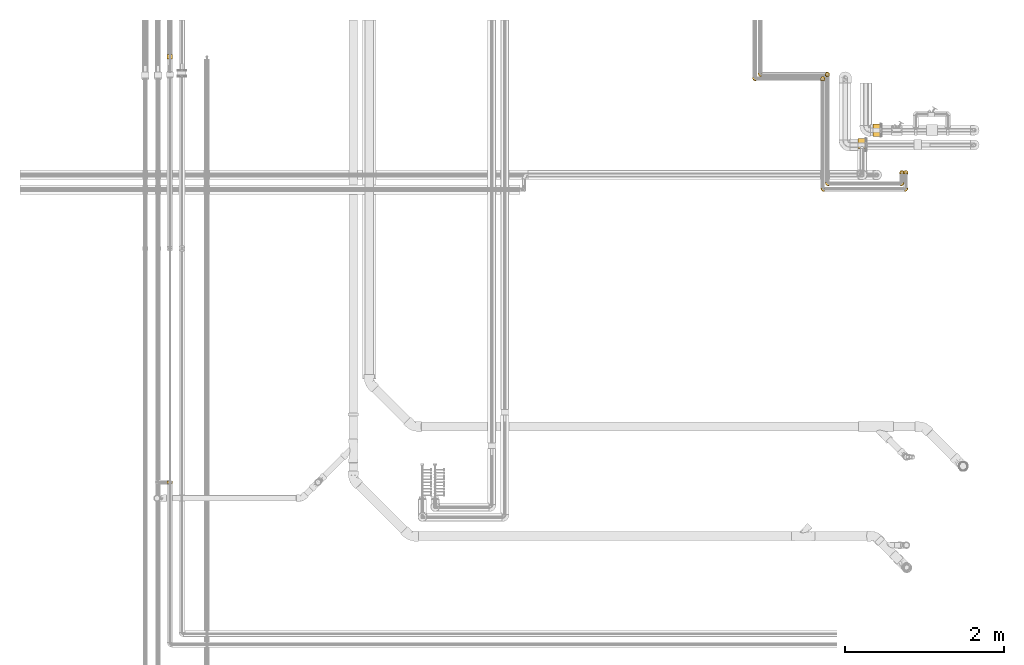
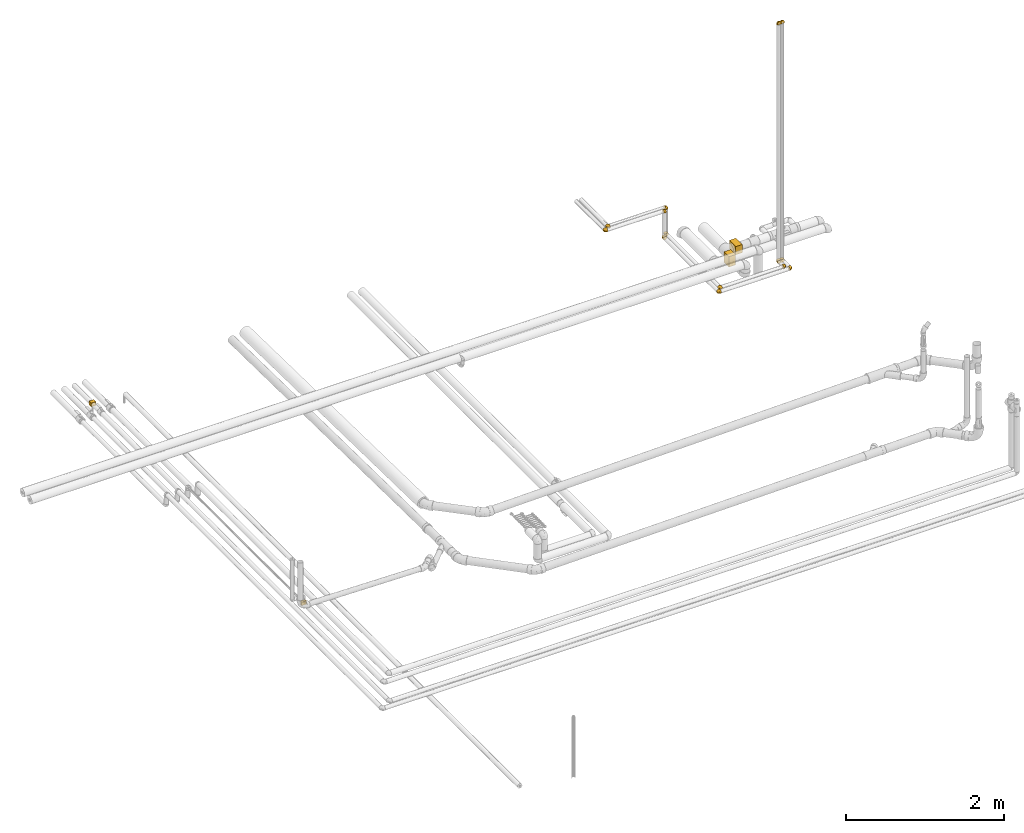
# One storey, part 12 of 83: 18 coverings.
"""IFC2X3 building model written with IfcOpenShell, lengths in millimetres."""

from ifc_helpers import new_model, entity, si_unit, converted_unit, derived_unit, direction, frame, origin_with_axes, place, context, subcontext, project, spatial, open_shell, surface_model, source, transform, mapped, element, save


model = new_model("IFC2X3")

# Units and contexts
model_context = context("Model", 3, precision=0.01, world=frame((0.0, 4.29681676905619e-09, 0.0)), true_north=direction((4.01073788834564e-13, 1.0)))
plan_context = context("Plan", 3, precision=0.01, world=frame((0.0, 4.29681676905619e-09, 0.0)), true_north=direction((4.01073788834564e-13, 1.0)))
body_context = subcontext(model_context, "Body", "Model", "MODEL_VIEW")
ifc_project = project(units=[converted_unit("PLANEANGLEUNIT", "DEGREE", entity("IfcPositiveLengthMeasure", 0.0174532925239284), si_unit("PLANEANGLEUNIT", "RADIAN"), dimensions=[0, 0, 0, 0, 0, 0, 0]), si_unit("AREAUNIT", "SQUARE_METRE"), si_unit("LENGTHUNIT", "METRE", prefix="MILLI"), si_unit("MASSUNIT", "GRAM", prefix="KILO"), si_unit("POWERUNIT", "WATT"), si_unit("PRESSUREUNIT", "PASCAL"), si_unit("FORCEUNIT", "NEWTON", prefix="KILO"), si_unit("ELECTRICVOLTAGEUNIT", "VOLT"), si_unit("ELECTRICCURRENTUNIT", "AMPERE"), si_unit("THERMODYNAMICTEMPERATUREUNIT", "DEGREE_CELSIUS"), si_unit("TIMEUNIT", "SECOND"), si_unit("VOLUMEUNIT", "CUBIC_METRE"), derived_unit("LINEARVELOCITYUNIT", [(si_unit("LENGTHUNIT", "METRE"), 1), (si_unit("TIMEUNIT", "SECOND"), -1)]), derived_unit("VOLUMETRICFLOWRATEUNIT", [(si_unit("VOLUMEUNIT", "CUBIC_METRE"), 1), (si_unit("TIMEUNIT", "SECOND"), -1)]), derived_unit("THERMALTRANSMITTANCEUNIT", [(si_unit("POWERUNIT", "WATT"), 1), (si_unit("THERMODYNAMICTEMPERATUREUNIT", "KELVIN"), -1), (si_unit("AREAUNIT", "SQUARE_METRE"), -1)]), derived_unit("SOUNDPRESSUREUNIT", [(si_unit("PRESSUREUNIT", "PASCAL"), 1)])], contexts=[model_context, plan_context])

# Site, building, storey
site_placement = place(None, frame((0.0, -4.29681676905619e-09, 0.0), z_axis=(0.0, 0.0, 1.0), x_axis=(1.0, 0.0, 0.0)))
site = spatial("IfcSite", under=ifc_project, at=site_placement, Name="ENGM", CompositionType="ELEMENT")
building_placement = place(site_placement, frame((0.0, 4.29681676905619e-09, 0.0), z_axis=(0.0, 0.0, 1.0), x_axis=(1.0, 0.0, 0.0)))
building = spatial("IfcBuilding", under=site, at=building_placement, Name="TI", CompositionType="ELEMENT")
storey_placement = place(building_placement, frame((0.0, 0.0, 204000.0), z_axis=(0.0, 0.0, 1.0), x_axis=(1.0, 0.0, 0.0)))
storey = spatial("IfcBuildingStorey", under=building, at=storey_placement, Name="Nivå D", CompositionType="ELEMENT", Elevation=204000.0)

# Coverings
shared_shape_1 = source(origin_with_axes(), body_context, "Body", "SurfaceModel", [
    surface_model("IfcShellBasedSurfaceModel", [(-48.4, 80.2, 80.2), (-48.4, -45.3, 80.2), (48.4, 80.2, 80.2), (48.4, -45.3, 80.2), (48.4, 80.2, -80.2), (48.4, -45.3, -80.2), (-48.4, 80.2, -80.2), (-48.4, -45.3, -80.2)], [open_shell([[[0, 1, 2]], [[3, 2, 1]], [[4, 5, 6]], [[7, 6, 5]], [[3, 1, 7]], [[7, 5, 3]], [[2, 3, 5]], [[5, 4, 2]], [[0, 2, 4]], [[4, 6, 0]], [[1, 0, 6]], [[6, 7, 1]]])]),
])
covering_1_placement = place(storey_placement, frame((608568.77351, 697908.0, 5915.24411), z_axis=(0.0, 0.0, 1.0), x_axis=(1.0, 0.0, 0.0)))
element("IfcCovering", 1, at=covering_1_placement, inside=storey, Name="BI11T - Rørskål m/Al.folie - varme 60-25", PredefinedType="INSULATION", context=body_context, shape_type="MappedRepresentation", body=[
    mapped(shared_shape_1, transform((0.0, 0.0, 0.0), scale=1.0)),
])
shared_shape_2 = source(origin_with_axes(), body_context, "Body", "SurfaceModel", [
    surface_model("IfcShellBasedSurfaceModel", [(-48.4, 80.2, -80.2), (-48.4, 80.2, 80.2), (48.4, 80.2, 80.2), (48.4, 80.2, -80.2), (48.4, -45.3, -80.2), (48.4, -45.3, 80.2), (-48.4, -45.3, 80.2), (-48.4, -45.3, -80.2)], [open_shell([[[0, 1, 2]], [[2, 3, 0]], [[4, 5, 6]], [[6, 7, 4]], [[2, 1, 5]], [[6, 5, 1]], [[3, 2, 5]], [[5, 4, 3]], [[0, 3, 7]], [[4, 7, 3]], [[1, 0, 7]], [[7, 6, 1]]])]),
])
covering_2_placement = place(storey_placement, frame((608752.77351, 698092.0, 5915.24411), z_axis=(0.0, -1.0, 0.0), x_axis=(1.0, 0.0, 0.0)))
element("IfcCovering", 2, at=covering_2_placement, inside=storey, Name="BI11T - Rørskål m/Al.folie - varme 60-25", PredefinedType="INSULATION", context=body_context, shape_type="MappedRepresentation", body=[
    mapped(shared_shape_2, transform((0.0, 0.0, 0.0), scale=1.0)),
])
shared_shape_3 = source(origin_with_axes(), body_context, "Body", "SurfaceModel", [
    surface_model("IfcShellBasedSurfaceModel", [(28.0, -21.0, 35.0), (-28.0, -21.0, 35.0), (-28.0, -21.0, -35.0), (28.0, -21.0, -35.0), (-28.0, 35.0, 35.0), (28.0, 35.0, 35.0), (28.0, 35.0, -35.0), (-28.0, 35.0, -35.0)], [open_shell([[[0, 1, 2]], [[2, 3, 0]], [[4, 5, 6]], [[6, 7, 4]], [[5, 4, 0]], [[1, 0, 4]], [[6, 5, 0]], [[0, 3, 6]], [[7, 6, 2]], [[3, 2, 6]], [[4, 7, 2]], [[2, 1, 4]]])]),
])
covering_3_placement = place(storey_placement, frame((599881.50429, 699013.57232, 6052.17455), z_axis=(1.0, 0.0, 0.0), x_axis=(0.0, 1.0, 0.0)))
element("IfcCovering", 3, at=covering_3_placement, inside=storey, Name="BI15T - Cellegummi KV 15mm", PredefinedType="INSULATION", context=body_context, shape_type="MappedRepresentation", body=[
    mapped(shared_shape_3, transform((0.0, 0.0, 0.0), scale=1.0)),
])
shared_shape_4 = source(origin_with_axes(), body_context, "Body", "SurfaceModel", [
    surface_model("IfcShellBasedSurfaceModel", [(-15.0, -21.0, -35.0), (15.0, -21.0, -35.0), (-15.0, -21.0, 35.0), (15.0, -21.0, 35.0), (15.0, 35.0, -35.0), (-15.0, 35.0, -35.0), (15.0, 35.0, 35.0), (-15.0, 35.0, 35.0)], [open_shell([[[0, 1, 2]], [[3, 2, 1]], [[4, 5, 6]], [[7, 6, 5]], [[4, 6, 3]], [[3, 1, 4]], [[5, 4, 1]], [[1, 0, 5]], [[7, 5, 0]], [[0, 2, 7]], [[6, 7, 2]], [[2, 3, 6]]])]),
])
covering_4_placement = place(storey_placement, frame((599881.50429, 693675.702, 6220.0), z_axis=(1.0, 0.0, 0.0), x_axis=(0.0, -1.0, 0.0)))
element("IfcCovering", 4, at=covering_4_placement, inside=storey, Name="BI15T - Cellegummi KV 15mm", PredefinedType="INSULATION", context=body_context, shape_type="MappedRepresentation", body=[
    mapped(shared_shape_4, transform((0.0, 0.0, 0.0), scale=1.0)),
])
shared_shape_5 = source(origin_with_axes(), body_context, "Body", "SurfaceModel", [
    surface_model("IfcShellBasedSurfaceModel", [(12.5872, 18.0, 26.12589), (18.08563, 18.0, 22.66959), (26.13012, 18.0, 12.57843), (22.67648, 18.0, 18.07698), (-6.31725, 18.0, 28.30358), (-17.77173, 18.0, -22.9165), (0.0, 18.0, 29.0), (6.45633, 18.0, 28.27217), (-17.77173, 18.0, 22.9165), (-12.34105, 18.0, 26.24307), (28.27375, 18.0, 6.44942), (28.27217, 18.0, -6.45633), (22.66959, 18.0, -18.08563), (26.12589, 18.0, -12.5872), (18.07698, 18.0, -22.67648), (-12.3529, 18.0, -26.23749), (-6.33004, 18.0, -28.30072), (12.57843, 18.0, -26.13012), (6.44942, 18.0, -28.27375), (0.0, 18.0, -29.0), (29.0, 18.0, 0.0), (-18.0, 17.77173, 22.9165), (-18.0, 17.77173, -22.9165), (-18.0, 12.34563, -26.24091), (-18.0, 6.32509, -28.30182), (-18.0, 0.0, -29.0), (-18.0, 0.0, 29.0), (-18.0, 12.34563, 26.24091), (-18.0, 6.32509, 28.30182), (-18.0, -14.5, 25.11474), (-18.0, -7.50575, 28.01185), (-18.0, -7.50575, -28.01185), (-18.0, -14.5, -25.11474), (-18.0, -25.11474, -14.5), (-18.0, -20.5061, -20.5061), (-18.0, -29.0, 0.0), (-18.0, -28.01185, -7.50575), (-18.0, -20.5061, 20.5061), (-18.0, -28.01185, 7.50575), (-18.0, -25.11474, 14.5), (-17.83859, 17.83859, 22.9165), (-17.83859, 17.83859, -22.9165), (-11.91423, 11.9123, -27.437), (-5.27208, 5.27208, -29.0), (-15.63786, 14.48961, -25.5229), (25.93601, 6.67854, -9.58205), (27.02342, 8.06308, 0.0), (-11.58944, -10.38288, -26.79251), (-8.72435, -16.42638, -23.00725), (-2.15074, -19.82057, -17.65408), (-10.78654, -22.36781, -17.65408), (-10.90925, -4.53647, -28.44912), (-4.56412, -7.81008, -26.79251), (1.42942, -22.15165, -11.53878), (4.08186, -22.64535, -6.52508), (-4.04847, -26.34204, -5.44064), (-6.34693, -25.25014, -11.09782), (8.70204, 11.12014, -27.37401), (12.30526, -12.14334, -15.12435), (15.68692, -5.11925, -17.84797), (18.58838, -6.20359, -13.10629), (-1.45635, 14.48406, -29.0), (20.49628, -7.02537, -7.85654), (-14.48406, 1.45635, -29.0), (17.63513, 1.45693, -19.69333), (20.97621, 0.92546, -15.43347), (14.81555, 11.64794, -24.55768), (19.28448, 8.39344, -20.51001), (12.61582, 4.58807, -24.55768), (4.16849, 4.09476, -27.82577), (3.89702, -4.58536, -25.68841), (-2.23671, -1.20763, -28.17991), (0.57021, -13.0879, -22.56817), (9.4476, -9.00088, -20.51001), (23.77672, 9.91353, -15.43347), (25.42234, 0.01388, 0.0), (15.09054, -13.36351, -8.92567), (-8.45406, 3.95406, -29.0), (-6.64688, -2.8871, -28.41954), (-11.63604, 2.63604, -29.0), (-2.9127, 10.96811, -29.0), (15.23402, -15.23402, 0.0), (20.32818, -7.61007, 0.0), (8.70429, -18.28971, -10.43847), (11.53611, -17.98985, -5.04364), (5.36399, -15.33486, -18.03817), (-8.06308, -27.02342, 0.0), (8.1898, 0.02909, -25.52631), (12.51117, -2.09819, -22.30296), (-4.09239, 8.1201, -29.0), (-0.01388, -25.42234, 0.0), (7.61007, -20.32818, 0.0), (-2.15312, -19.82156, 17.65408), (0.57215, -13.08608, 22.56863), (-8.72508, -16.42658, 23.00725), (-4.04847, -26.34203, 5.4407), (-10.78795, -22.36806, 17.65408), (-6.34785, -25.25039, 11.09782), (25.939, 6.67899, 9.57411), (1.43206, -22.14749, 11.54476), (-11.58944, -10.38288, 26.79251), (20.50587, -7.01305, 7.85179), (20.98134, 0.92337, 15.42467), (4.16859, 4.08516, 27.82424), (8.70955, 11.11747, 27.37123), (-2.9127, 10.96811, 29.0), (8.71076, -18.28571, 10.43687), (11.53628, -17.99007, 5.04207), (15.09914, -13.35631, 8.92169), (12.51139, -2.10414, 22.30009), (8.20363, 0.03075, 25.52066), (3.90743, -4.56802, 25.69113), (-2.23663, -1.20773, 28.17988), (-6.92531, -2.24067, 28.55295), (-4.56412, -7.81008, 26.79251), (15.69231, -5.11628, 17.84442), (9.45318, -9.00636, 20.50219), (12.31497, -12.1393, 15.11775), (23.78211, 9.91229, 15.42467), (19.29205, 8.39148, 20.50219), (14.82422, 11.64641, 24.55215), (12.62384, 4.58443, 24.55215), (17.64599, 1.45836, 19.68333), (-11.63604, 2.63604, 29.0), (-14.48406, 1.45635, 29.0), (-10.90925, -4.53647, 28.44912), (5.3697, -15.3417, 18.027), (-1.45635, 14.48406, 29.0), (4.08207, -22.64476, 6.52689), (-5.27208, 5.27208, 29.0), (-4.09239, 8.1201, 29.0), (-8.45406, 3.95406, 29.0), (18.10711, -6.95019, 13.06771), (-11.91423, 11.9123, 27.437), (-10.60868, 7.01569, 28.60662)], [open_shell([[[0, 1, 2]], [[2, 1, 3]], [[4, 0, 5]], [[6, 7, 0]], [[5, 8, 9]], [[5, 9, 4]], [[6, 0, 4]], [[10, 11, 5]], [[11, 12, 5]], [[12, 11, 13]], [[14, 5, 12]], [[15, 5, 16]], [[17, 5, 14]], [[18, 5, 17]], [[19, 16, 5]], [[19, 5, 18]], [[11, 10, 20]], [[21, 22, 23]], [[24, 25, 23]], [[26, 23, 25]], [[27, 21, 28]], [[21, 26, 28]], [[21, 23, 26]], [[26, 29, 30]], [[26, 25, 29]], [[31, 32, 33]], [[31, 33, 29]], [[33, 32, 34]], [[35, 33, 36]], [[29, 33, 37]], [[33, 38, 39]], [[39, 37, 33]], [[38, 33, 35]], [[31, 29, 25]], [[22, 21, 40]], [[41, 22, 40]], [[8, 5, 40]], [[41, 40, 5]], [[42, 24, 23]], [[25, 24, 43]], [[43, 24, 42]], [[42, 23, 44]], [[22, 41, 44]], [[41, 5, 15]], [[19, 43, 16]], [[15, 44, 41]], [[22, 44, 23]], [[15, 16, 42]], [[15, 42, 44]], [[43, 42, 16]], [[45, 11, 46]], [[32, 31, 47]], [[45, 13, 11]], [[48, 49, 50]], [[47, 51, 52]], [[53, 54, 55]], [[55, 36, 56]], [[17, 57, 18]], [[50, 33, 34]], [[34, 32, 48]], [[58, 59, 60]], [[33, 50, 56]], [[18, 61, 19]], [[45, 62, 60]], [[31, 25, 63]], [[64, 65, 59]], [[66, 67, 68]], [[69, 70, 71]], [[17, 66, 57]], [[66, 17, 14]], [[72, 70, 73]], [[67, 14, 12]], [[74, 67, 12]], [[62, 45, 75]], [[64, 67, 65]], [[58, 60, 76]], [[12, 13, 74]], [[49, 48, 72]], [[75, 45, 46]], [[65, 74, 45]], [[33, 56, 36]], [[77, 78, 79]], [[69, 80, 57]], [[57, 61, 18]], [[81, 62, 82]], [[69, 57, 68]], [[83, 84, 54]], [[47, 48, 32]], [[72, 73, 85]], [[53, 83, 54]], [[36, 55, 86]], [[58, 85, 73]], [[43, 69, 71]], [[70, 87, 88]], [[69, 43, 89]], [[11, 20, 46]], [[45, 74, 13]], [[67, 74, 65]], [[67, 66, 14]], [[57, 66, 68]], [[63, 51, 31]], [[48, 47, 52]], [[48, 52, 72]], [[70, 72, 52]], [[52, 51, 78]], [[88, 87, 68]], [[51, 63, 79]], [[71, 77, 43]], [[31, 51, 47]], [[71, 52, 78]], [[79, 78, 51]], [[52, 71, 70]], [[86, 55, 90]], [[86, 35, 36]], [[84, 81, 91]], [[91, 90, 54]], [[55, 54, 90]], [[76, 84, 83]], [[91, 54, 84]], [[53, 55, 56]], [[56, 49, 53]], [[85, 53, 49]], [[58, 76, 83]], [[76, 62, 81]], [[83, 53, 85]], [[59, 58, 73]], [[83, 85, 58]], [[72, 85, 49]], [[88, 59, 73]], [[60, 59, 65]], [[70, 88, 73]], [[64, 68, 67]], [[70, 69, 87]], [[69, 68, 87]], [[45, 60, 65]], [[60, 62, 76]], [[59, 88, 64]], [[68, 64, 88]], [[48, 50, 34]], [[56, 50, 49]], [[57, 80, 61]], [[62, 75, 82]], [[81, 84, 76]], [[89, 80, 69]], [[77, 71, 78]], [[92, 93, 94]], [[90, 95, 86]], [[96, 97, 92]], [[2, 98, 10]], [[39, 38, 97]], [[95, 99, 97]], [[30, 29, 100]], [[101, 98, 102]], [[103, 104, 105]], [[104, 0, 7]], [[106, 107, 108]], [[29, 37, 94]], [[109, 110, 111]], [[112, 113, 114]], [[37, 39, 96]], [[115, 116, 117]], [[102, 118, 119]], [[1, 119, 3]], [[37, 96, 94]], [[98, 2, 118]], [[98, 46, 10]], [[1, 0, 120]], [[121, 109, 122]], [[121, 104, 103]], [[104, 121, 120]], [[101, 75, 98]], [[109, 116, 115]], [[123, 124, 125]], [[117, 126, 106]], [[93, 111, 114]], [[30, 124, 26]], [[120, 119, 1]], [[81, 101, 108]], [[2, 3, 118]], [[7, 127, 104]], [[119, 118, 3]], [[101, 81, 82]], [[38, 86, 95]], [[95, 128, 99]], [[90, 91, 128]], [[106, 108, 117]], [[92, 126, 93]], [[100, 94, 114]], [[129, 103, 130]], [[112, 131, 113]], [[46, 98, 75]], [[46, 20, 10]], [[98, 118, 102]], [[104, 120, 0]], [[119, 120, 121]], [[94, 100, 29]], [[125, 30, 100]], [[111, 93, 116]], [[114, 94, 93]], [[111, 116, 109]], [[103, 129, 112]], [[112, 114, 111]], [[30, 125, 124]], [[114, 125, 100]], [[131, 112, 129]], [[125, 113, 123]], [[103, 112, 111]], [[38, 35, 86]], [[107, 128, 91]], [[38, 95, 97]], [[108, 107, 81]], [[81, 107, 91]], [[128, 107, 106]], [[128, 106, 99]], [[128, 95, 90]], [[126, 99, 106]], [[92, 97, 99]], [[103, 105, 130]], [[115, 132, 102]], [[108, 101, 132]], [[126, 117, 116]], [[132, 115, 117]], [[102, 119, 122]], [[122, 115, 102]], [[109, 121, 110]], [[121, 103, 110]], [[103, 111, 110]], [[93, 126, 116]], [[126, 92, 99]], [[108, 132, 117]], [[102, 132, 101]], [[121, 122, 119]], [[109, 115, 122]], [[97, 96, 39]], [[94, 96, 92]], [[127, 7, 6]], [[127, 105, 104]], [[82, 75, 101]], [[123, 113, 131]], [[114, 113, 125]], [[133, 27, 28]], [[21, 27, 40]], [[40, 27, 133]], [[133, 28, 134]], [[26, 129, 134]], [[129, 6, 4]], [[8, 40, 9]], [[4, 134, 129]], [[26, 134, 28]], [[4, 9, 133]], [[4, 133, 134]], [[40, 133, 9]], [[2, 10, 0]], [[5, 0, 10]]])]),
])
for number, where, z_axis, x_axis in (
    (5, (609117.81817, 697349.51267, 5920.0), (0.0, 0.0, 1.0), (1.0, 0.0, 0.0)),
    (6, (609117.81817, 697559.51267, 9600.0), (1.0, 0.0, 0.0), (0.0, 0.0, 1.0)),
    (7, (609069.65402, 697419.51267, 5920.0), (0.0, 0.0, 1.0), (1.0, 0.0, 0.0)),
    (8, (609069.65402, 697559.51267, 9600.0), (1.0, 0.0, 0.0), (0.0, 0.0, 1.0)),
    (9, (607289.38671, 698791.7695, 6330.0), (0.0, 0.0, 1.0), (0.0, -1.0, 0.0)),
    (10, (607219.88671, 698736.7695, 6330.0), (0.0, 0.0, 1.0), (0.0, -1.0, 0.0)),
    (11, (608134.38671, 697419.51267, 5920.0), (0.0, 0.0, 1.0), (0.0, -1.0, 0.0)),
    (12, (608077.81817, 697349.51267, 5920.0), (0.0, 0.0, 1.0), (0.0, -1.0, 0.0)),
):
    element("IfcCovering", number, at=place(storey_placement, frame(where, z_axis=z_axis, x_axis=x_axis)), inside=storey, Name="BI10T - Cellegummi 18-32 mm kalde rør", PredefinedType="INSULATION", context=body_context, shape_type="MappedRepresentation", body=[
        mapped(shared_shape_5, transform((0.0, 0.0, 0.0), scale=1.0)),
    ])
shared_shape_6 = source(origin_with_axes(), body_context, "Body", "SurfaceModel", [
    surface_model("IfcShellBasedSurfaceModel", [(12.5872, 18.0, 26.12589), (18.08563, 18.0, 22.66959), (26.13012, 18.0, 12.57843), (-17.77173, 18.0, -22.9165), (22.67648, 18.0, 18.07698), (-6.31725, 18.0, 28.30358), (0.0, 18.0, 29.0), (6.45633, 18.0, 28.27217), (-17.77173, 18.0, 22.9165), (-12.34105, 18.0, 26.24307), (28.27375, 18.0, 6.44942), (28.27217, 18.0, -6.45633), (22.66959, 18.0, -18.08563), (26.12589, 18.0, -12.5872), (18.07698, 18.0, -22.67648), (-12.3529, 18.0, -26.23749), (-6.33004, 18.0, -28.30072), (12.57843, 18.0, -26.13012), (6.44942, 18.0, -28.27375), (0.0, 18.0, -29.0), (29.0, 18.0, 0.0), (-18.0, 17.77173, 22.9165), (-18.0, 17.77173, -22.9165), (-18.0, 12.34563, -26.24091), (-18.0, 6.32509, -28.30182), (-18.0, 0.0, -29.0), (-18.0, 0.0, 29.0), (-18.0, 12.34563, 26.24091), (-18.0, 6.32509, 28.30182), (-18.0, -14.5, 25.11474), (-18.0, -7.50575, 28.01185), (-18.0, -7.50575, -28.01185), (-18.0, -14.5, -25.11474), (-18.0, -25.11474, -14.5), (-18.0, -20.5061, -20.5061), (-18.0, -29.0, 0.0), (-18.0, -28.01185, -7.50575), (-18.0, -20.5061, 20.5061), (-18.0, -28.01185, 7.50575), (-18.0, -25.11474, 14.5), (-17.83859, 17.83859, 22.9165), (-17.83859, 17.83859, -22.9165), (-11.91423, 11.9123, -27.437), (-5.27208, 5.27208, -29.0), (-15.63786, 14.48961, -25.5229), (25.93601, 6.67854, -9.58205), (27.02342, 8.06308, 0.0), (-11.58944, -10.38288, -26.79251), (-8.72435, -16.42638, -23.00725), (-2.15074, -19.82057, -17.65408), (-10.78654, -22.36781, -17.65408), (-10.90925, -4.53647, -28.44912), (-4.56412, -7.81008, -26.79251), (1.42942, -22.15165, -11.53878), (4.08186, -22.64535, -6.52508), (-4.04847, -26.34204, -5.44064), (-6.34693, -25.25014, -11.09782), (8.70204, 11.12014, -27.37401), (12.30526, -12.14334, -15.12435), (15.68692, -5.11925, -17.84797), (18.58838, -6.20359, -13.10629), (-1.45635, 14.48406, -29.0), (20.49628, -7.02537, -7.85654), (-14.48406, 1.45635, -29.0), (17.63513, 1.45693, -19.69333), (20.97621, 0.92546, -15.43347), (14.81555, 11.64794, -24.55768), (19.28448, 8.39344, -20.51001), (12.61582, 4.58807, -24.55768), (4.16849, 4.09476, -27.82577), (3.89702, -4.58536, -25.68841), (-2.23671, -1.20763, -28.17991), (0.57021, -13.0879, -22.56817), (9.4476, -9.00088, -20.51001), (23.77672, 9.91353, -15.43347), (25.42234, 0.01388, 0.0), (15.09054, -13.36351, -8.92567), (-8.45406, 3.95406, -29.0), (-6.64688, -2.8871, -28.41954), (-11.63604, 2.63604, -29.0), (-2.9127, 10.96811, -29.0), (15.23402, -15.23402, 0.0), (20.32818, -7.61007, 0.0), (8.70429, -18.28971, -10.43847), (11.53611, -17.98985, -5.04364), (5.36399, -15.33486, -18.03817), (-8.06308, -27.02342, 0.0), (8.1898, 0.02909, -25.52631), (12.51117, -2.09819, -22.30296), (-4.09239, 8.1201, -29.0), (-0.01388, -25.42234, 0.0), (7.61007, -20.32818, 0.0), (-2.15312, -19.82156, 17.65408), (0.57215, -13.08608, 22.56863), (-8.72508, -16.42658, 23.00725), (-4.04847, -26.34203, 5.4407), (-10.78795, -22.36806, 17.65408), (-6.34785, -25.25039, 11.09782), (25.939, 6.67899, 9.57411), (1.43206, -22.14749, 11.54476), (-11.58944, -10.38288, 26.79251), (20.50587, -7.01305, 7.85179), (20.98134, 0.92337, 15.42467), (4.16859, 4.08516, 27.82424), (8.70955, 11.11747, 27.37123), (-2.9127, 10.96811, 29.0), (8.71076, -18.28571, 10.43687), (11.53628, -17.99007, 5.04207), (15.09914, -13.35631, 8.92169), (12.51139, -2.10414, 22.30009), (8.20363, 0.03075, 25.52066), (3.90743, -4.56802, 25.69113), (-2.23663, -1.20773, 28.17988), (-6.92531, -2.24067, 28.55295), (-4.56412, -7.81008, 26.79251), (15.69231, -5.11628, 17.84442), (9.45318, -9.00636, 20.50219), (12.31497, -12.1393, 15.11775), (23.78211, 9.91229, 15.42467), (19.29205, 8.39148, 20.50219), (14.82422, 11.64641, 24.55215), (12.62384, 4.58443, 24.55215), (17.64599, 1.45836, 19.68333), (-11.63604, 2.63604, 29.0), (-14.48406, 1.45635, 29.0), (-10.90925, -4.53647, 28.44912), (5.3697, -15.3417, 18.027), (-1.45635, 14.48406, 29.0), (4.08207, -22.64476, 6.52689), (-5.27208, 5.27208, 29.0), (-4.09239, 8.1201, 29.0), (-8.45406, 3.95406, 29.0), (18.10711, -6.95019, 13.06771), (-11.91423, 11.9123, 27.437), (-10.60868, 7.01569, 28.60662)], [open_shell([[[0, 1, 2]], [[0, 2, 3]], [[2, 1, 4]], [[5, 0, 3]], [[6, 7, 0]], [[3, 8, 9]], [[3, 9, 5]], [[6, 0, 5]], [[10, 3, 2]], [[10, 11, 3]], [[11, 12, 3]], [[12, 11, 13]], [[14, 3, 12]], [[15, 3, 16]], [[17, 3, 14]], [[18, 3, 17]], [[19, 16, 3]], [[19, 3, 18]], [[11, 10, 20]], [[21, 22, 23]], [[24, 25, 23]], [[26, 23, 25]], [[27, 21, 28]], [[21, 26, 28]], [[21, 23, 26]], [[26, 29, 30]], [[26, 25, 29]], [[31, 32, 33]], [[31, 33, 29]], [[33, 32, 34]], [[35, 33, 36]], [[29, 33, 37]], [[33, 38, 39]], [[39, 37, 33]], [[38, 33, 35]], [[31, 29, 25]], [[22, 21, 40]], [[41, 22, 40]], [[8, 3, 40]], [[41, 40, 3]], [[42, 24, 23]], [[25, 24, 43]], [[43, 24, 42]], [[42, 23, 44]], [[22, 41, 44]], [[41, 3, 15]], [[19, 43, 16]], [[15, 44, 41]], [[22, 44, 23]], [[15, 16, 42]], [[15, 42, 44]], [[43, 42, 16]], [[45, 11, 46]], [[32, 31, 47]], [[45, 13, 11]], [[48, 49, 50]], [[47, 51, 52]], [[53, 54, 55]], [[55, 36, 56]], [[17, 57, 18]], [[50, 33, 34]], [[34, 32, 48]], [[58, 59, 60]], [[33, 50, 56]], [[18, 61, 19]], [[45, 62, 60]], [[31, 25, 63]], [[64, 65, 59]], [[66, 67, 68]], [[69, 70, 71]], [[17, 66, 57]], [[66, 17, 14]], [[72, 70, 73]], [[67, 14, 12]], [[74, 67, 12]], [[62, 45, 75]], [[64, 67, 65]], [[58, 60, 76]], [[12, 13, 74]], [[49, 48, 72]], [[75, 45, 46]], [[65, 74, 45]], [[33, 56, 36]], [[77, 78, 79]], [[69, 80, 57]], [[57, 61, 18]], [[81, 62, 82]], [[69, 57, 68]], [[83, 84, 54]], [[47, 48, 32]], [[72, 73, 85]], [[53, 83, 54]], [[36, 55, 86]], [[58, 85, 73]], [[43, 69, 71]], [[70, 87, 88]], [[69, 43, 89]], [[11, 20, 46]], [[45, 74, 13]], [[67, 74, 65]], [[67, 66, 14]], [[57, 66, 68]], [[63, 51, 31]], [[48, 47, 52]], [[48, 52, 72]], [[70, 72, 52]], [[52, 51, 78]], [[88, 87, 68]], [[51, 63, 79]], [[71, 77, 43]], [[31, 51, 47]], [[71, 52, 78]], [[79, 78, 51]], [[52, 71, 70]], [[86, 55, 90]], [[86, 35, 36]], [[84, 81, 91]], [[91, 90, 54]], [[55, 54, 90]], [[76, 84, 83]], [[91, 54, 84]], [[53, 55, 56]], [[56, 49, 53]], [[85, 53, 49]], [[58, 76, 83]], [[76, 62, 81]], [[83, 53, 85]], [[59, 58, 73]], [[83, 85, 58]], [[72, 85, 49]], [[88, 59, 73]], [[60, 59, 65]], [[70, 88, 73]], [[64, 68, 67]], [[70, 69, 87]], [[69, 68, 87]], [[45, 60, 65]], [[60, 62, 76]], [[59, 88, 64]], [[68, 64, 88]], [[48, 50, 34]], [[56, 50, 49]], [[57, 80, 61]], [[62, 75, 82]], [[81, 84, 76]], [[89, 80, 69]], [[77, 71, 78]], [[92, 93, 94]], [[90, 95, 86]], [[96, 97, 92]], [[2, 98, 10]], [[39, 38, 97]], [[95, 99, 97]], [[30, 29, 100]], [[101, 98, 102]], [[103, 104, 105]], [[104, 0, 7]], [[106, 107, 108]], [[29, 37, 94]], [[109, 110, 111]], [[112, 113, 114]], [[37, 39, 96]], [[115, 116, 117]], [[102, 118, 119]], [[1, 119, 4]], [[37, 96, 94]], [[98, 2, 118]], [[98, 46, 10]], [[1, 0, 120]], [[121, 109, 122]], [[121, 104, 103]], [[104, 121, 120]], [[101, 75, 98]], [[109, 116, 115]], [[123, 124, 125]], [[117, 126, 106]], [[93, 111, 114]], [[30, 124, 26]], [[120, 119, 1]], [[81, 101, 108]], [[2, 4, 118]], [[7, 127, 104]], [[119, 118, 4]], [[101, 81, 82]], [[38, 86, 95]], [[95, 128, 99]], [[90, 91, 128]], [[106, 108, 117]], [[92, 126, 93]], [[100, 94, 114]], [[129, 103, 130]], [[112, 131, 113]], [[46, 98, 75]], [[46, 20, 10]], [[98, 118, 102]], [[104, 120, 0]], [[119, 120, 121]], [[94, 100, 29]], [[125, 30, 100]], [[111, 93, 116]], [[114, 94, 93]], [[111, 116, 109]], [[103, 129, 112]], [[112, 114, 111]], [[30, 125, 124]], [[114, 125, 100]], [[131, 112, 129]], [[125, 113, 123]], [[103, 112, 111]], [[38, 35, 86]], [[107, 128, 91]], [[38, 95, 97]], [[108, 107, 81]], [[81, 107, 91]], [[128, 107, 106]], [[128, 106, 99]], [[128, 95, 90]], [[126, 99, 106]], [[92, 97, 99]], [[103, 105, 130]], [[115, 132, 102]], [[108, 101, 132]], [[126, 117, 116]], [[132, 115, 117]], [[102, 119, 122]], [[122, 115, 102]], [[109, 121, 110]], [[121, 103, 110]], [[103, 111, 110]], [[93, 126, 116]], [[126, 92, 99]], [[108, 132, 117]], [[102, 132, 101]], [[121, 122, 119]], [[109, 115, 122]], [[97, 96, 39]], [[94, 96, 92]], [[127, 7, 6]], [[127, 105, 104]], [[82, 75, 101]], [[123, 113, 131]], [[114, 113, 125]], [[133, 27, 28]], [[21, 27, 40]], [[40, 27, 133]], [[133, 28, 134]], [[26, 129, 134]], [[129, 6, 5]], [[8, 40, 9]], [[5, 134, 129]], [[26, 134, 28]], [[5, 9, 133]], [[5, 133, 134]], [[40, 133, 9]]])]),
])
for number, where, z_axis, x_axis in (
    (13, (609117.81817, 697559.51267, 5920.0), (1.0, 0.0, 0.0), (0.0, 1.0, 0.0)),
    (14, (609069.65402, 697559.51267, 5920.0), (1.0, 0.0, 0.0), (0.0, 1.0, 0.0)),
    (15, (608134.38671, 698791.7695, 6330.0), (0.0, 1.0, 0.0), (1.0, 0.0, 0.0)),
    (16, (608077.81817, 698736.7695, 6330.0), (0.0, 1.0, 0.0), (1.0, 0.0, 0.0)),
    (17, (608134.38671, 698791.7695, 5920.0), (-1.0, 0.0, 0.0), (0.0, 0.0, -1.0)),
    (18, (608077.81817, 698736.7695, 5920.0), (-1.0, 0.0, 0.0), (0.0, 0.0, -1.0)),
):
    element("IfcCovering", number, at=place(storey_placement, frame(where, z_axis=z_axis, x_axis=x_axis)), inside=storey, Name="BI10T - Cellegummi 18-32 mm kalde rør", PredefinedType="INSULATION", context=body_context, shape_type="MappedRepresentation", body=[
        mapped(shared_shape_6, transform((0.0, 0.0, 0.0), scale=1.0)),
    ])

save(model, "model.ifc")
